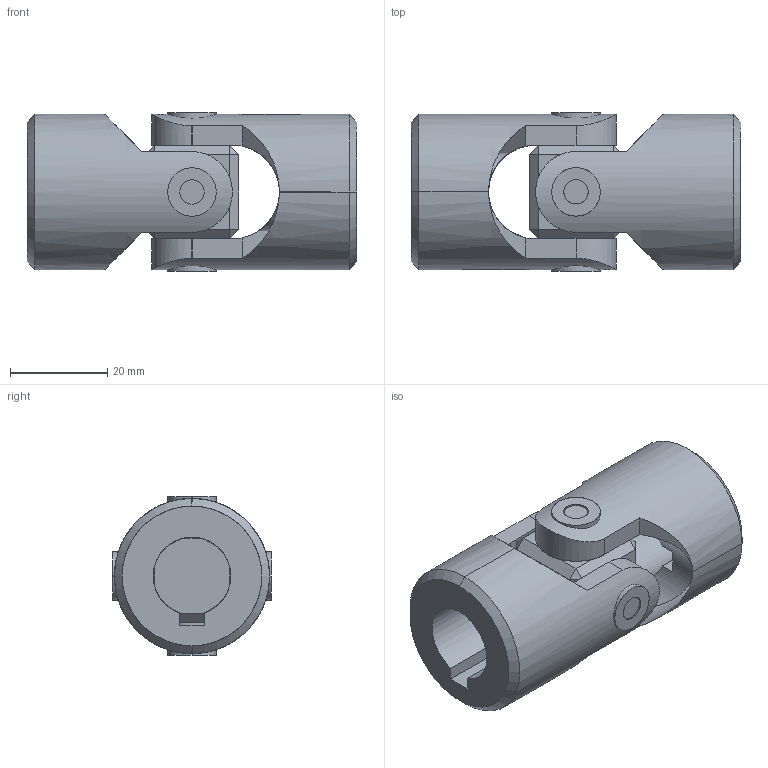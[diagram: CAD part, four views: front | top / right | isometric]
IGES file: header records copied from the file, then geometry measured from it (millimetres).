
Start section: SolidWorks IGES file using analytic representation for surfaces
Global section: file name: C:\Users\IanO\Desktop\R3690_v2\R3690_v2_20231020_IGES\R3690.016-KW.igs; native system: SolidWorks 2019; preprocessor: SolidWorks 2019; author: IanO; date: 231020.152458; units: millimetre
Bounding box: 68 x 32.64 x 32.64 mm (x, y, z)
Surface area: 16353.6 mm2 (no closed solid volume)
Topology: 0 solids, 0 shells, 110 faces, 2292 edges, 2292 vertices
Faces by surface type: bspline 62, revolution 48
